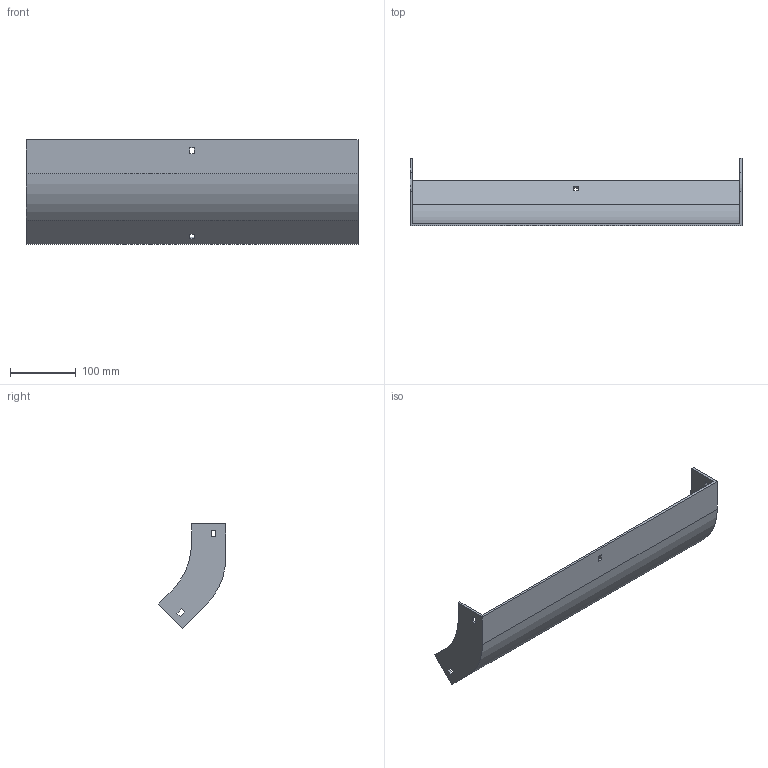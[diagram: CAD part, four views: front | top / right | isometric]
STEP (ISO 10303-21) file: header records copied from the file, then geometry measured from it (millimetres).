
FILE_DESCRIPTION (( 'STEP AP214' ), '1' );
FILE_NAME ('31F1B500.step', '2025-02-21T13:00:22', ( '' ), ( '' ), 'SwSTEP 2.0', 'SolidWorks 2023', '' );
FILE_SCHEMA (( 'AUTOMOTIVE_DESIGN' ));
Length unit declared in the file: millimetre
Products named in the file (1): 31F1B500
Bounding box: 504 x 102.5 x 158.69 mm (x, y, z)
Volume: 371979.2 mm3; surface area: 218438.9 mm2
Topology: 1 solids, 1 shells, 42 faces, 120 edges, 80 vertices
Faces by surface type: plane 38, cylinder 4
Entity records: 1399 total; most frequent: CARTESIAN_POINT 243, ORIENTED_EDGE 240, DIRECTION 214, EDGE_CURVE 120, VECTOR 112, LINE 112, VERTEX_POINT 80, EDGE_LOOP 54
